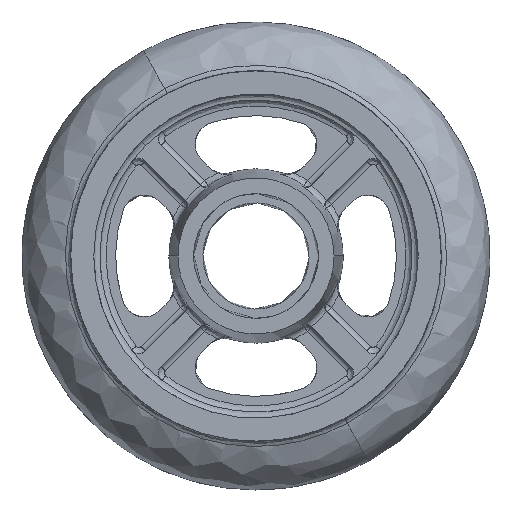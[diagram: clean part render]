
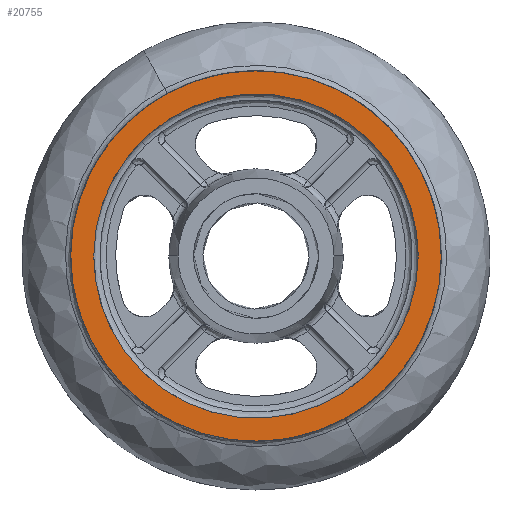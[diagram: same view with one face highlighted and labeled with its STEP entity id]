
A CAD part, left-side view. The second image highlights one B-rep face of the part: STEP entity #20755.
In plain terms, the highlighted planar face has unit normal (-1, 0, 0).
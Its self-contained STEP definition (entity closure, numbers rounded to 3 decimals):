
#3183 = EDGE_CURVE ( 'NONE', #4870, #4560, #28275, .T. ) ;
#4264 = VERTEX_POINT ( 'NONE', #18626 ) ;
#4560 = VERTEX_POINT ( 'NONE', #18745 ) ;
#4870 = VERTEX_POINT ( 'NONE', #22670 ) ;
#4959 = VERTEX_POINT ( 'NONE', #22740 ) ;
#10679 = CARTESIAN_POINT ( 'NONE',  ( -24., 101.998, -123. ) ) ;
#10687 = CARTESIAN_POINT ( 'NONE',  ( -24., 101.998, -104.422 ) ) ;
#10688 = CARTESIAN_POINT ( 'NONE',  ( -24., 92.087, -87.256 ) ) ;
#10689 = CARTESIAN_POINT ( 'NONE',  ( -24., 75.998, -77.967 ) ) ;
#10690 = CARTESIAN_POINT ( 'NONE',  ( -24., 59.909, -68.678 ) ) ;
#10691 = CARTESIAN_POINT ( 'NONE',  ( -24., 40.087, -68.678 ) ) ;
#10692 = CARTESIAN_POINT ( 'NONE',  ( -24., 23.998, -77.967 ) ) ;
#10693 = CARTESIAN_POINT ( 'NONE',  ( -24., 7.909, -87.256 ) ) ;
#10694 = CARTESIAN_POINT ( 'NONE',  ( -24., -2.002, -104.422 ) ) ;
#10695 = CARTESIAN_POINT ( 'NONE',  ( -24., -2.002, -123. ) ) ;
#11383 = CARTESIAN_POINT ( 'NONE',  ( -24., 21.522, -175.128 ) ) ;
#11394 = CARTESIAN_POINT ( 'NONE',  ( -24., 30.673, -180.127 ) ) ;
#11395 = CARTESIAN_POINT ( 'NONE',  ( -24., 40.978, -182.629 ) ) ;
#11396 = CARTESIAN_POINT ( 'NONE',  ( -24., 51.402, -182.383 ) ) ;
#11397 = CARTESIAN_POINT ( 'NONE',  ( -24., 61.826, -182.137 ) ) ;
#11398 = CARTESIAN_POINT ( 'NONE',  ( -24., 72.001, -179.152 ) ) ;
#11399 = CARTESIAN_POINT ( 'NONE',  ( -24., 80.906, -173.727 ) ) ;
#11400 = CARTESIAN_POINT ( 'NONE',  ( -24., 89.81, -168.302 ) ) ;
#11401 = CARTESIAN_POINT ( 'NONE',  ( -24., 97.129, -160.628 ) ) ;
#11402 = CARTESIAN_POINT ( 'NONE',  ( -24., 102.128, -151.478 ) ) ;
#11403 = CARTESIAN_POINT ( 'NONE',  ( -24., 107.127, -142.327 ) ) ;
#11404 = CARTESIAN_POINT ( 'NONE',  ( -24., 109.629, -132.022 ) ) ;
#11405 = CARTESIAN_POINT ( 'NONE',  ( -24., 109.383, -121.598 ) ) ;
#11406 = CARTESIAN_POINT ( 'NONE',  ( -24., 109.137, -111.174 ) ) ;
#11407 = CARTESIAN_POINT ( 'NONE',  ( -24., 106.152, -100.999 ) ) ;
#11408 = CARTESIAN_POINT ( 'NONE',  ( -24., 100.727, -92.094 ) ) ;
#11409 = CARTESIAN_POINT ( 'NONE',  ( -24., 95.302, -83.19 ) ) ;
#11410 = CARTESIAN_POINT ( 'NONE',  ( -24., 87.628, -75.871 ) ) ;
#11411 = CARTESIAN_POINT ( 'NONE',  ( -24., 78.478, -70.872 ) ) ;
#11420 = CARTESIAN_POINT ( 'NONE',  ( -24., 78.478, -70.872 ) ) ;
#11425 = CARTESIAN_POINT ( 'NONE',  ( -24., 69.327, -65.873 ) ) ;
#11426 = CARTESIAN_POINT ( 'NONE',  ( -24., 59.022, -63.371 ) ) ;
#11427 = CARTESIAN_POINT ( 'NONE',  ( -24., 48.598, -63.617 ) ) ;
#11428 = CARTESIAN_POINT ( 'NONE',  ( -24., 38.174, -63.863 ) ) ;
#11429 = CARTESIAN_POINT ( 'NONE',  ( -24., 27.999, -66.848 ) ) ;
#11430 = CARTESIAN_POINT ( 'NONE',  ( -24., 19.094, -72.273 ) ) ;
#11431 = CARTESIAN_POINT ( 'NONE',  ( -24., 10.19, -77.698 ) ) ;
#11432 = CARTESIAN_POINT ( 'NONE',  ( -24., 2.871, -85.372 ) ) ;
#11433 = CARTESIAN_POINT ( 'NONE',  ( -24., -2.128, -94.522 ) ) ;
#11434 = CARTESIAN_POINT ( 'NONE',  ( -24., -7.127, -103.673 ) ) ;
#11435 = CARTESIAN_POINT ( 'NONE',  ( -24., -9.629, -113.978 ) ) ;
#11436 = CARTESIAN_POINT ( 'NONE',  ( -24., -9.383, -124.402 ) ) ;
#11437 = CARTESIAN_POINT ( 'NONE',  ( -24., -9.137, -134.826 ) ) ;
#11438 = CARTESIAN_POINT ( 'NONE',  ( -24., -6.152, -145.001 ) ) ;
#11439 = CARTESIAN_POINT ( 'NONE',  ( -24., -0.727, -153.906 ) ) ;
#11440 = CARTESIAN_POINT ( 'NONE',  ( -24., 4.698, -162.81 ) ) ;
#11441 = CARTESIAN_POINT ( 'NONE',  ( -24., 12.372, -170.129 ) ) ;
#11442 = CARTESIAN_POINT ( 'NONE',  ( -24., 21.522, -175.128 ) ) ;
#15397 = CARTESIAN_POINT ( 'NONE',  ( -24., -2.002, -123. ) ) ;
#15517 = CARTESIAN_POINT ( 'NONE',  ( -24., -2.002, -141.578 ) ) ;
#15518 = CARTESIAN_POINT ( 'NONE',  ( -24., 7.909, -158.744 ) ) ;
#15520 = CARTESIAN_POINT ( 'NONE',  ( -24., 23.998, -168.033 ) ) ;
#15521 = CARTESIAN_POINT ( 'NONE',  ( -24., 40.087, -177.322 ) ) ;
#15522 = CARTESIAN_POINT ( 'NONE',  ( -24., 59.909, -177.322 ) ) ;
#15523 = CARTESIAN_POINT ( 'NONE',  ( -24., 75.998, -168.033 ) ) ;
#15524 = CARTESIAN_POINT ( 'NONE',  ( -24., 92.087, -158.744 ) ) ;
#15525 = CARTESIAN_POINT ( 'NONE',  ( -24., 101.998, -141.578 ) ) ;
#15526 = CARTESIAN_POINT ( 'NONE',  ( -24., 101.998, -123. ) ) ;
#15801 = B_SPLINE_CURVE_WITH_KNOTS ( 'NONE', 3,
 ( #11420, #11425, #11426, #11427, #11428, #11429, #11430, #11431, #11432, #11433, #11434, #11435, #11436, #11437, #11438, #11439, #11440, #11441, #11442 ),
 .UNSPECIFIED., .F., .F.,
 ( 4, 3, 3, 3, 3, 3, 4 ),
 ( -0.111, -0.08, -0.049, -0.018, 0.013, 0.044, 0.075 ),
 .UNSPECIFIED. ) ;
#15805 = B_SPLINE_CURVE_WITH_KNOTS ( 'NONE', 3,
 ( #11383, #11394, #11395, #11396, #11397, #11398, #11399, #11400, #11401, #11402, #11403, #11404, #11405, #11406, #11407, #11408, #11409, #11410, #11411 ),
 .UNSPECIFIED., .F., .F.,
 ( 4, 3, 3, 3, 3, 3, 4 ),
 ( -0.111, -0.08, -0.049, -0.018, 0.013, 0.044, 0.075 ),
 .UNSPECIFIED. ) ;
#15867 = B_SPLINE_CURVE_WITH_KNOTS ( 'NONE', 3,
 ( #10679, #10687, #10688, #10689, #10690, #10691, #10692, #10693, #10694, #10695 ),
 .UNSPECIFIED., .F., .F.,
 ( 4, 3, 3, 4 ),
 ( 0.037, 0.091, 0.145, 0.2 ),
 .UNSPECIFIED. ) ;
#18626 = CARTESIAN_POINT ( 'NONE',  ( -24., 21.522, -175.128 ) ) ;
#18745 = CARTESIAN_POINT ( 'NONE',  ( -24., 101.998, -123. ) ) ;
#20755 = ADVANCED_FACE ( 'NONE', ( #27798, #27778 ), #30923, .F. ) ;
#22670 = CARTESIAN_POINT ( 'NONE',  ( -24., -2.002, -123. ) ) ;
#22740 = CARTESIAN_POINT ( 'NONE',  ( -24., 78.478, -70.872 ) ) ;
#27778 = FACE_OUTER_BOUND ( 'NONE', #33930, .T. ) ;
#27798 = FACE_BOUND ( 'NONE', #33538, .T. ) ;
#27935 = AXIS2_PLACEMENT_3D ( 'NONE', #30922, #30924, #30925 ) ;
#27979 = EDGE_CURVE ( 'NONE', #4560, #4870, #15867, .T. ) ;
#28056 = EDGE_CURVE ( 'NONE', #4264, #4959, #15805, .T. ) ;
#28060 = EDGE_CURVE ( 'NONE', #4959, #4264, #15801, .T. ) ;
#28275 = B_SPLINE_CURVE_WITH_KNOTS ( 'NONE', 3,
 ( #15397, #15517, #15518, #15520, #15521, #15522, #15523, #15524, #15525, #15526 ),
 .UNSPECIFIED., .F., .F.,
 ( 4, 3, 3, 4 ),
 ( -0.125, -0.071, -0.017, 0.037 ),
 .UNSPECIFIED. ) ;
#30922 = CARTESIAN_POINT ( 'NONE',  ( -24., -12.402, -185.4 ) ) ;
#30923 = PLANE ( 'NONE',  #27935 ) ;
#30924 = DIRECTION ( 'NONE',  ( 1., 0., 0. ) ) ;
#30925 = DIRECTION ( 'NONE',  ( 0., 1., 0. ) ) ;
#33538 = EDGE_LOOP ( 'NONE', ( #33675, #33672 ) ) ;
#33670 = ORIENTED_EDGE ( 'NONE', *, *, #28060, .F. ) ;
#33671 = ORIENTED_EDGE ( 'NONE', *, *, #28056, .F. ) ;
#33672 = ORIENTED_EDGE ( 'NONE', *, *, #3183, .T. ) ;
#33675 = ORIENTED_EDGE ( 'NONE', *, *, #27979, .T. ) ;
#33930 = EDGE_LOOP ( 'NONE', ( #33671, #33670 ) ) ;
